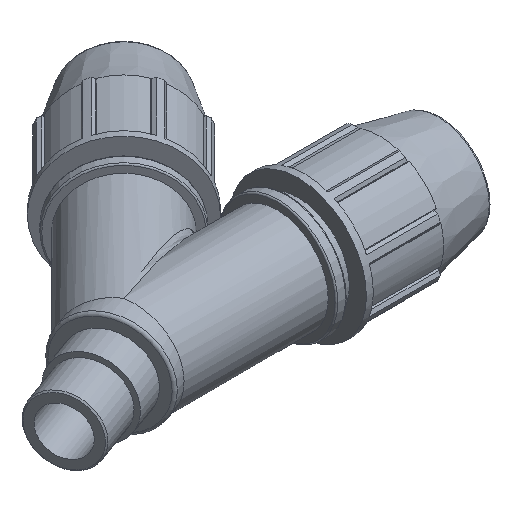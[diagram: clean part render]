
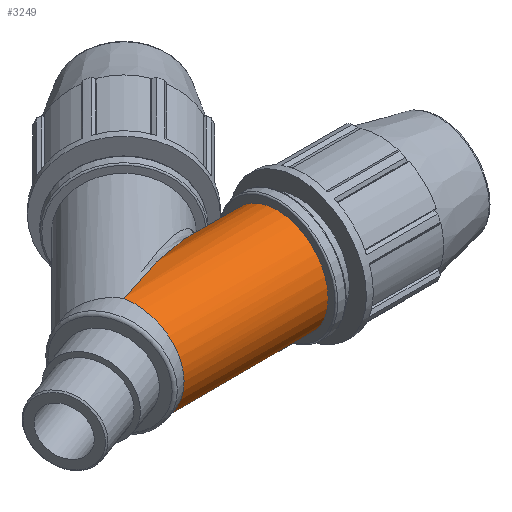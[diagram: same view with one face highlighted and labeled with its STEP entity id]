
A CAD part, isometric view. The second image highlights one B-rep face of the part: STEP entity #3249.
In plain terms, the highlighted cylindrical face has radius 20.193 mm (diameter 40.386 mm), a full revolution.
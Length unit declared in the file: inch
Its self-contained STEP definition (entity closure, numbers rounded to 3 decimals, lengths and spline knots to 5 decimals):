
#191=ELLIPSE('',#3439,0.80726,0.795);
#192=ELLIPSE('',#3440,0.80726,0.795);
#201=ELLIPSE('',#3476,2.31593,0.795);
#212=LINE('',#4869,#459);
#459=VECTOR('',#3900,0.795);
#707=CYLINDRICAL_SURFACE('',#3473,0.795);
#756=FACE_OUTER_BOUND('',#933,.T.);
#933=EDGE_LOOP('',(#2151,#2152,#2153,#2154,#2155,#2156,#2157));
#1125=CIRCLE('',#3474,0.795);
#1126=CIRCLE('',#3475,0.795);
#1293=VERTEX_POINT('',#4808);
#1294=VERTEX_POINT('',#4810);
#1295=VERTEX_POINT('',#4812);
#1310=VERTEX_POINT('',#4865);
#1311=VERTEX_POINT('',#4866);
#1619=EDGE_CURVE('',#1294,#1293,#191,.T.);
#1620=EDGE_CURVE('',#1295,#1294,#192,.T.);
#1646=EDGE_CURVE('',#1310,#1311,#1125,.T.);
#1647=EDGE_CURVE('',#1311,#1310,#1126,.T.);
#1648=EDGE_CURVE('',#1311,#1294,#212,.T.);
#1649=EDGE_CURVE('',#1295,#1293,#201,.T.);
#2151=ORIENTED_EDGE('',*,*,#1646,.F.);
#2152=ORIENTED_EDGE('',*,*,#1647,.F.);
#2153=ORIENTED_EDGE('',*,*,#1648,.T.);
#2154=ORIENTED_EDGE('',*,*,#1619,.T.);
#2155=ORIENTED_EDGE('',*,*,#1649,.F.);
#2156=ORIENTED_EDGE('',*,*,#1620,.T.);
#2157=ORIENTED_EDGE('',*,*,#1648,.F.);
#3249=ADVANCED_FACE('',(#756),#707,.T.);
#3439=AXIS2_PLACEMENT_3D('',#4811,#3822,#3823);
#3440=AXIS2_PLACEMENT_3D('',#4813,#3824,#3825);
#3473=AXIS2_PLACEMENT_3D('',#4864,#3894,#3895);
#3474=AXIS2_PLACEMENT_3D('',#4867,#3896,#3897);
#3475=AXIS2_PLACEMENT_3D('',#4868,#3898,#3899);
#3476=AXIS2_PLACEMENT_3D('',#4870,#3901,#3902);
#3822=DIRECTION('center_axis',(0.985,0.174,0.));
#3823=DIRECTION('ref_axis',(0.174,-0.985,0.));
#3824=DIRECTION('center_axis',(0.985,0.174,0.));
#3825=DIRECTION('ref_axis',(0.174,-0.985,0.));
#3894=DIRECTION('center_axis',(1.,0.,0.));
#3895=DIRECTION('ref_axis',(0.,1.,0.));
#3896=DIRECTION('center_axis',(1.,0.,0.));
#3897=DIRECTION('ref_axis',(0.,0.,-1.));
#3898=DIRECTION('center_axis',(1.,0.,0.));
#3899=DIRECTION('ref_axis',(0.,0.,-1.));
#3900=DIRECTION('',(-1.,0.,0.));
#3901=DIRECTION('center_axis',(-0.343,0.939,0.));
#3902=DIRECTION('ref_axis',(0.939,0.343,0.));
#4808=CARTESIAN_POINT('',(0.,0.,-0.795));
#4810=CARTESIAN_POINT('',(0.14018,-0.795,0.));
#4811=CARTESIAN_POINT('Origin',(0.,0.,
0.));
#4812=CARTESIAN_POINT('',(0.,0.,0.795));
#4813=CARTESIAN_POINT('Origin',(0.,0.,
0.));
#4864=CARTESIAN_POINT('Origin',(1.189,0.,0.));
#4865=CARTESIAN_POINT('',(2.378,0.795,0.));
#4866=CARTESIAN_POINT('',(2.378,-0.795,0.));
#4867=CARTESIAN_POINT('Origin',(2.378,0.,0.));
#4868=CARTESIAN_POINT('Origin',(2.378,0.,0.));
#4869=CARTESIAN_POINT('',(1.189,-0.795,0.));
#4870=CARTESIAN_POINT('Origin',(0.,0.,0.));
